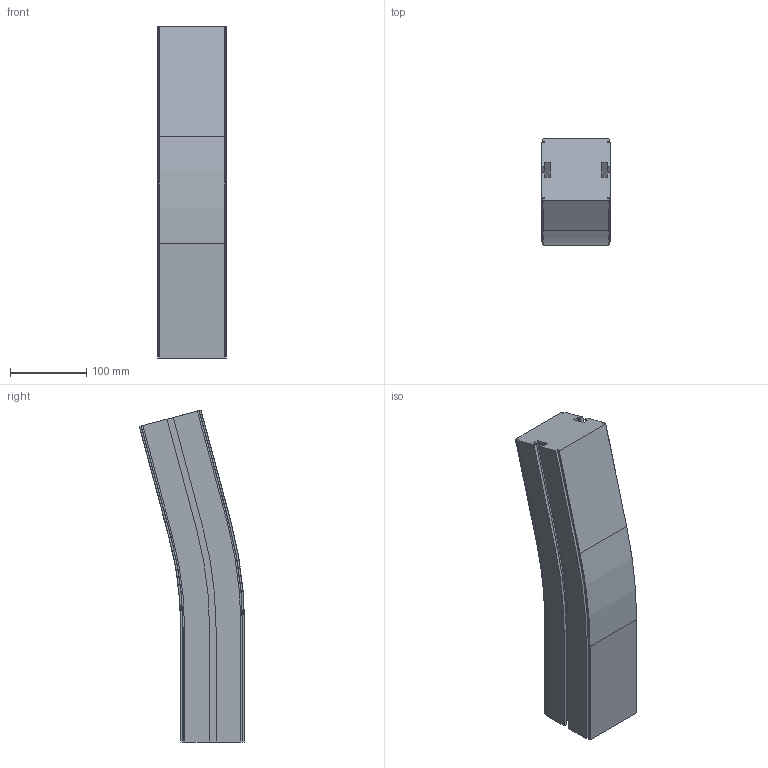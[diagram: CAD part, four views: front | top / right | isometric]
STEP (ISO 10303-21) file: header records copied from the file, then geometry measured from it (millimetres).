
FILE_DESCRIPTION (( 'STEP AP214' ), '1' );
FILE_NAME ('927760 CS090SL Verticale bochtsectie R500 15°.STEP', '2014-03-20T15:03:09', ( 'Beheerder' ), ( '' ), 'SwSTEP 2.0', 'SolidWorks 2012', '' );
FILE_SCHEMA (( 'AUTOMOTIVE_DESIGN' ));
Length unit declared in the file: millimetre
Products named in the file (1): 927760 CS090SL Verticale bochtsectie R500 15°
Bounding box: 90 x 138.43 x 435.17 mm (x, y, z)
Volume: 3082927.9 mm3; surface area: 209920.4 mm2
Topology: 1 solids, 1 shells, 98 faces, 272 edges, 176 vertices
Faces by surface type: plane 72, cylinder 18, cone 8
Entity records: 3126 total; most frequent: CARTESIAN_POINT 547, ORIENTED_EDGE 544, DIRECTION 514, EDGE_CURVE 272, VECTOR 228, LINE 228, VERTEX_POINT 176, AXIS2_PLACEMENT_3D 143
